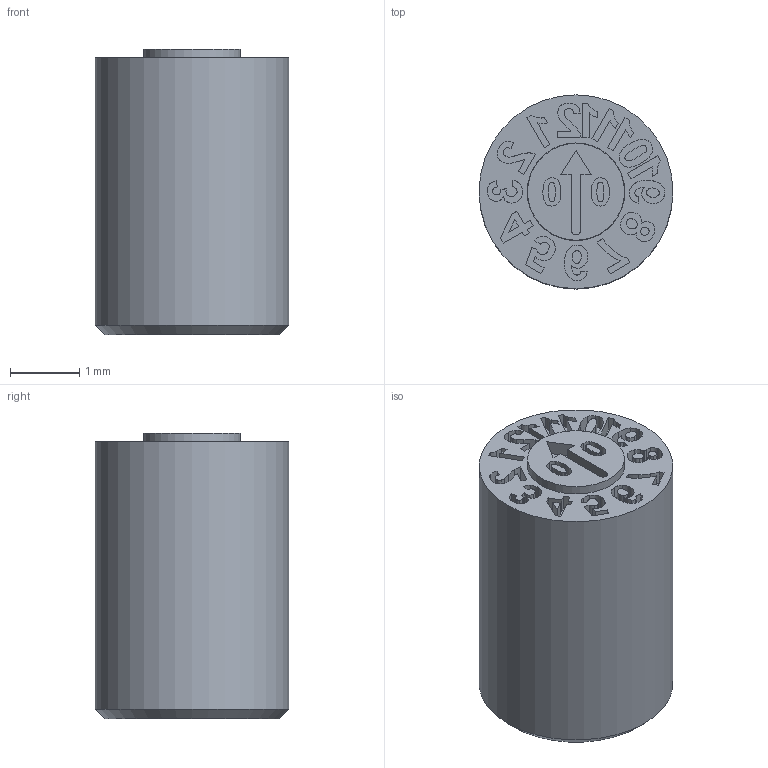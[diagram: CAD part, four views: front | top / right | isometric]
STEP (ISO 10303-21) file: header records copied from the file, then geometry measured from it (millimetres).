
FILE_DESCRIPTION(/* description */ (''),/* implementation_level */ '2;1');
FILE_NAME(/* name */ 'IMC-DK-MY2-8.step',/* time_stamp */ '2025-04-10T15:16:53+02:00',/* author */ (''),/* organization */ (''),/* preprocessor_version */ 'ST-DEVELOPER v20.1',/* originating_system */ 'Autodesk Translation Framework v14.4.0.0',/* authorisation */ '');
FILE_SCHEMA (('AUTOMOTIVE_DESIGN { 1 0 10303 214 3 1 1 }'));
Length unit declared in the file: millimetre
Products named in the file (1): DK-MY2-8
Bounding box: 2.8 x 2.8 x 4.12 mm (x, y, z)
Volume: 24.4 mm3; surface area: 63.3 mm2
Topology: 1 solids, 1 shells, 336 faces, 917 edges, 611 vertices
Faces by surface type: bspline 231, plane 100, cylinder 4, cone 1
Full cylindrical faces by diameter (mm): 1.4 x1, 1.41 x1, 2.8 x1
Entity records: 12745 total; most frequent: CARTESIAN_POINT 5792, ORIENTED_EDGE 1834, EDGE_CURVE 917, DIRECTION 676, VERTEX_POINT 611, B_SPLINE_CURVE_WITH_KNOTS 462, LINE 446, VECTOR 446
